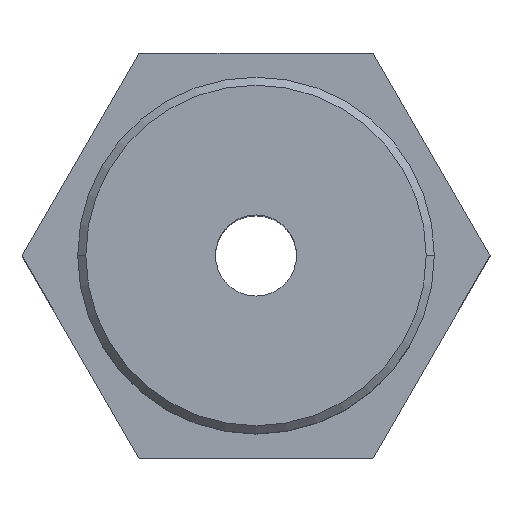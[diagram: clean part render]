
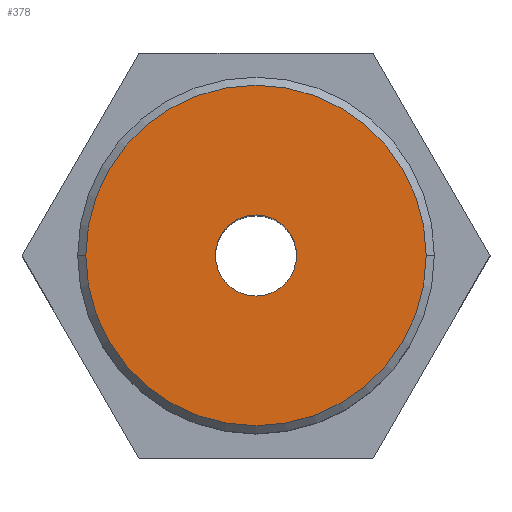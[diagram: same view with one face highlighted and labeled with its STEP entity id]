
A CAD part, top view. The second image highlights one B-rep face of the part: STEP entity #378.
In plain terms, the highlighted planar face has unit normal (0, 0, 1).
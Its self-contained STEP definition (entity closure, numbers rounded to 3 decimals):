
#8 = CARTESIAN_POINT ( 'NONE',  ( 0., 0., 9.5 ) ) ;
#10 = FACE_BOUND ( 'NONE', #102, .T. ) ;
#21 = AXIS2_PLACEMENT_3D ( 'NONE', #177, #357, #474 ) ;
#59 = DIRECTION ( 'NONE',  ( 1., 0., 0. ) ) ;
#82 = CARTESIAN_POINT ( 'NONE',  ( -4.2, 0., 9.5 ) ) ;
#84 = CARTESIAN_POINT ( 'NONE',  ( 0., 0., 9.5 ) ) ;
#85 = VERTEX_POINT ( 'NONE', #461 ) ;
#97 = EDGE_CURVE ( 'NONE', #85, #635, #127, .T. ) ;
#102 = EDGE_LOOP ( 'NONE', ( #564, #701 ) ) ;
#106 = EDGE_CURVE ( 'NONE', #318, #191, #385, .T. ) ;
#115 = EDGE_CURVE ( 'NONE', #635, #85, #346, .T. ) ;
#122 = EDGE_LOOP ( 'NONE', ( #375, #722 ) ) ;
#126 = DIRECTION ( 'NONE',  ( -1., 0., 0. ) ) ;
#127 = CIRCLE ( 'NONE', #241, 1. ) ;
#174 = CIRCLE ( 'NONE', #691, 4.2 ) ;
#177 = CARTESIAN_POINT ( 'NONE',  ( 0., 0., 9.5 ) ) ;
#191 = VERTEX_POINT ( 'NONE', #82 ) ;
#192 = CARTESIAN_POINT ( 'NONE',  ( 0., 0., 9.5 ) ) ;
#208 = DIRECTION ( 'NONE',  ( 1., 0., 0. ) ) ;
#241 = AXIS2_PLACEMENT_3D ( 'NONE', #192, #345, #126 ) ;
#297 = CARTESIAN_POINT ( 'NONE',  ( 4.2, 0., 9.5 ) ) ;
#311 = FACE_OUTER_BOUND ( 'NONE', #122, .T. ) ;
#318 = VERTEX_POINT ( 'NONE', #297 ) ;
#329 = DIRECTION ( 'NONE',  ( 0., 0., 1. ) ) ;
#345 = DIRECTION ( 'NONE',  ( 0., 0., -1. ) ) ;
#346 = CIRCLE ( 'NONE', #21, 1. ) ;
#348 = AXIS2_PLACEMENT_3D ( 'NONE', #631, #355, #585 ) ;
#355 = DIRECTION ( 'NONE',  ( 0., 0., 1. ) ) ;
#357 = DIRECTION ( 'NONE',  ( 0., 0., -1. ) ) ;
#375 = ORIENTED_EDGE ( 'NONE', *, *, #515, .T. ) ;
#378 = ADVANCED_FACE ( 'NONE', ( #311, #10 ), #534, .T. ) ;
#385 = CIRCLE ( 'NONE', #664, 4.2 ) ;
#412 = DIRECTION ( 'NONE',  ( 0., 0., 1. ) ) ;
#461 = CARTESIAN_POINT ( 'NONE',  ( 1., 0., 9.5 ) ) ;
#474 = DIRECTION ( 'NONE',  ( -1., 0., 0. ) ) ;
#515 = EDGE_CURVE ( 'NONE', #191, #318, #174, .T. ) ;
#534 = PLANE ( 'NONE',  #348 ) ;
#564 = ORIENTED_EDGE ( 'NONE', *, *, #115, .T. ) ;
#585 = DIRECTION ( 'NONE',  ( 1., 0., 0. ) ) ;
#631 = CARTESIAN_POINT ( 'NONE',  ( 0., 0., 9.5 ) ) ;
#635 = VERTEX_POINT ( 'NONE', #698 ) ;
#664 = AXIS2_PLACEMENT_3D ( 'NONE', #8, #412, #59 ) ;
#691 = AXIS2_PLACEMENT_3D ( 'NONE', #84, #329, #208 ) ;
#698 = CARTESIAN_POINT ( 'NONE',  ( -1., 0., 9.5 ) ) ;
#701 = ORIENTED_EDGE ( 'NONE', *, *, #97, .T. ) ;
#722 = ORIENTED_EDGE ( 'NONE', *, *, #106, .T. ) ;
